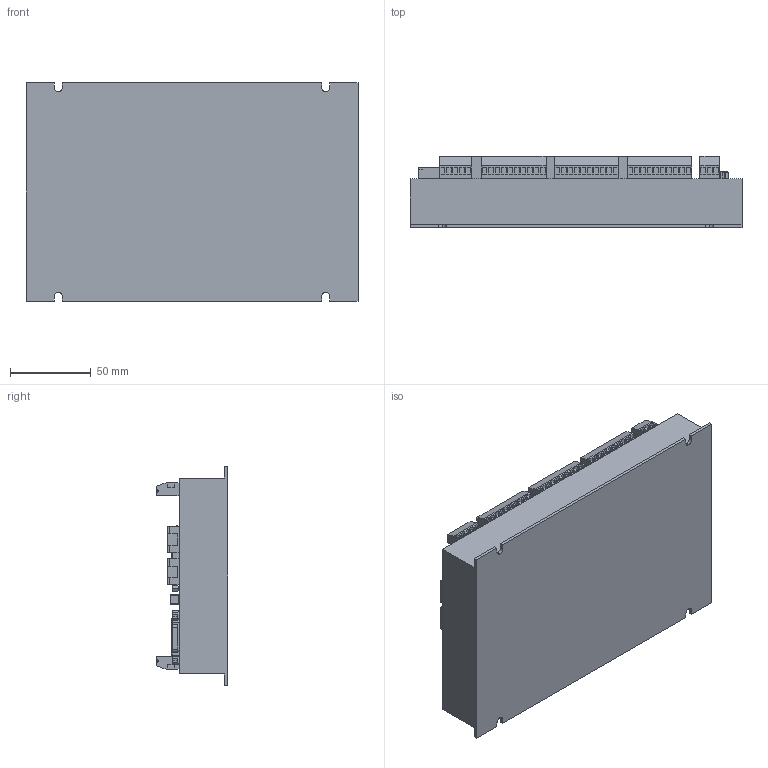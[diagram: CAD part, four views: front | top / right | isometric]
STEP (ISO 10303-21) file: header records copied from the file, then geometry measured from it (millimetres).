
FILE_DESCRIPTION((''),'2;1');
FILE_NAME('ZMC406-432_ASM','2024-08-30T09:00:41',('admin'),(''),'CREO PARAMETRIC BY PTC INC, 2021063','CREO PARAMETRIC BY PTC INC, 2021063','');
FILE_SCHEMA(('CONFIG_CONTROL_DESIGN','SHAPE_APPEARANCE_LAYERS_GROUPS'));
Products named in the file (69): _-5000; _2_7_0001; _2_46_0001; _2_40_0001; _2_25_0001; _2_32_0001; _2_9_0001; _2_44_0001; _2_10_0001; _2_13_0001; _2_23_0001; _2_12_0001; _2_33_0001; _2_17_0001; _2_39_0001; _2_8_0001; _2_36_0001; _2_19_0001; _2_27_0001; _2_2_-351940001; _2_20_0001; _2_34_0001; 600; _2_11_0001; _2_24_0001; _2_31_0001; _2_1_-430340001; _2_37_0001; _2_42_0001; _2_30_0001; _2_48_0001; _2_5_0001; _2_15_0001; _2_22_0001; _2_47_0001; _2_21_0001; _2_38_0001; _2_6_0001; _2_45_0001; _2_18_0001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
Assembly tree (82 placements, depth 4):
  ZMC406-432_ASM
    ZMC406-432_1_ASM
      _-5000  x3
      ZMC464-432-406-00_ASM
        _2_7_0001
        _2_46_0001
        _2_40_0001
        _2_25_0001
        _2_32_0001
        _2_9_0001
        _2_44_0001
        _2_10_0001
        _2_13_0001
        _2_23_0001
        _2_12_0001
        _2_33_0001
        _2_17_0001
        _2_39_0001
        _2_8_0001
        _2_36_0001
        _2_19_0001
        _2_27_0001
        _2_2_-351940001
        _2_20_0001
        _2_34_0001
        600
        _2_11_0001
        _2_24_0001
        _2_31_0001
        _2_1_-430340001
        _2_37_0001
        _2_42_0001
        _2_30_0001
        _2_48_0001
        _2_5_0001
        _2_15_0001
        _2_22_0001
        _2_47_0001
        _2_21_0001
        _2_38_0001
        _2_6_0001
        _2_45_0001
        _2_18_0001
        _2_29_0001
        _2_4_0001
        _2_16_0001
        _2_3_-645240001
        _2_14_0001
        _2_43_0001
        _2_41_0001
        _2_28_0001
        _2_26_0001
        _2_35_0001
        _2_49_0001
      U0
      _000  x2
      26-3-0001_ASM  x6
        _1_2_0001
        _1_3_0001
        _1_1_0001
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Bounding box: 205 x 44 x 135 mm (x, y, z)
Volume: 778602 mm3; surface area: 103598.9 mm2
Topology: 96 solids, 96 shells, 3148 faces, 7890 edges, 5216 vertices
Faces by surface type: plane 2120, cylinder 608, extrusion 388, torus 24, sphere 8
Entity records: 88928 total; most frequent: CARTESIAN_POINT 23957, ORIENTED_EDGE 10160, DIRECTION 8592, PRESENTATION_STYLE_ASSIGNMENT 5251, STYLED_ITEM 5119, EDGE_CURVE 5080, CURVE_STYLE 5032, VECTOR 4304
